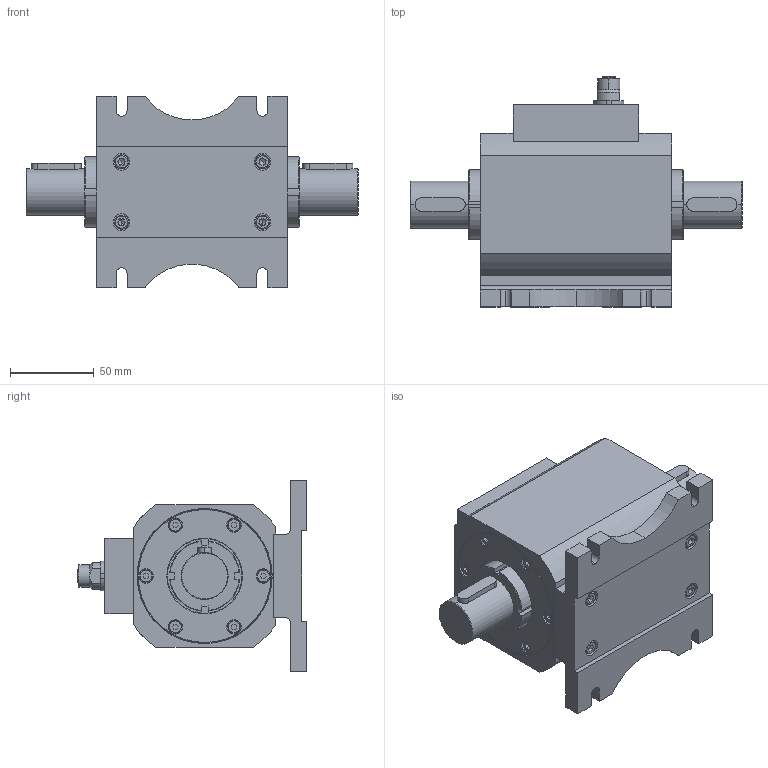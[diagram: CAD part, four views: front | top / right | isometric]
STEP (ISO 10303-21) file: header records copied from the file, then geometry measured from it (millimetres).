
FILE_DESCRIPTION (( 'STEP AP203' ), '1' );
FILE_NAME ('RTS03-500NM.STEP', '2026-05-28T14:34:40', ( '' ), ( '' ), 'SwSTEP 2.0', 'SolidWorks 2019', '' );
FILE_SCHEMA (( 'CONFIG_CONTROL_DESIGN' ));
Length unit declared in the file: millimetre
Products named in the file (1): RTS03-500NM
Bounding box: 198 x 137.1 x 114 mm (x, y, z)
Volume: 1042259.2 mm3; surface area: 127672.5 mm2
Topology: 7 solids, 7 shells, 750 faces, 1861 edges, 1195 vertices
Faces by surface type: cylinder 328, plane 314, cone 83, bspline 12, torus 12, sphere 1
Entity records: 35352 total; most frequent: CARTESIAN_POINT 18020, ORIENTED_EDGE 3684, DIRECTION 3513, EDGE_CURVE 1842, AXIS2_PLACEMENT_3D 1254, VERTEX_POINT 1193, VECTOR 1005, LINE 1005
